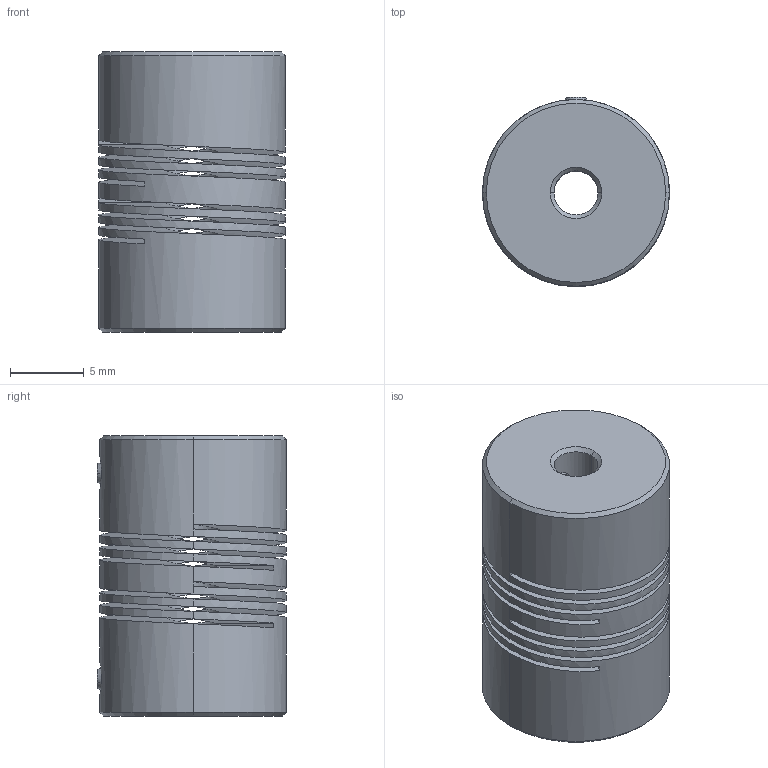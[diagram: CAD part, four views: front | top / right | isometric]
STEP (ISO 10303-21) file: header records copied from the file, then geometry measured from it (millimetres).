
FILE_DESCRIPTION((''),'2;1');
FILE_NAME('PSMR13-3-3-A','2016-09-08T',('SYSTEM'),(''),'PRO/ENGINEER BY PARAMETRIC TECHNOLOGY CORPORATION, 2015110','PRO/ENGINEER BY PARAMETRIC TECHNOLOGY CORPORATION, 2015110','');
FILE_SCHEMA(('AUTOMOTIVE_DESIGN { 1 0 10303 214 1 1 1 1 }'));
Length unit declared in the file: millimetre
Products named in the file (1): PSMR13-3-3-A
Bounding box: 12.7 x 12.85 x 19.05 mm (x, y, z)
Volume: 1982.9 mm3; surface area: 2739.5 mm2
Topology: 3 solids, 3 shells, 100 faces, 260 edges, 160 vertices
Faces by surface type: cylinder 40, plane 28, cone 20, bspline 12
Entity records: 6544 total; most frequent: CARTESIAN_POINT 3495, ORIENTED_EDGE 520, DIRECTION 396, EDGE_CURVE 260, VERTEX_POINT 160, VECTOR 140, LINE 140, AXIS2_PLACEMENT_3D 128
